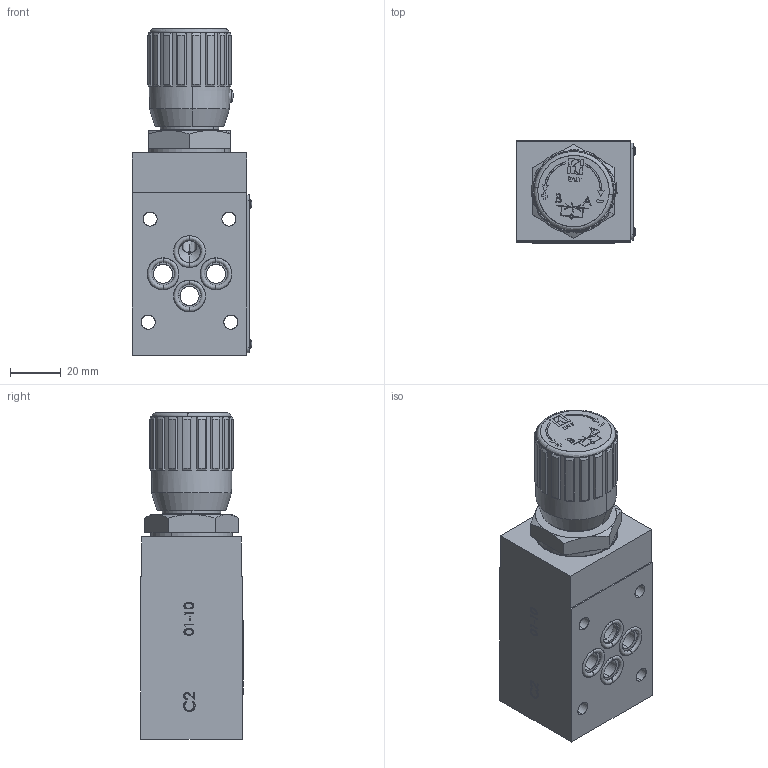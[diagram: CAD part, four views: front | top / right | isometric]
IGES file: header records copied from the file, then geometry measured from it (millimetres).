
Start section: SolidWorks IGES file using analytic representation for surfaces
Global section: file name: C:\Users\user\Desktop\FT357-5-A-03.IGS; native system: SolidWorks 2014; preprocessor: SolidWorks 2014; author: user; date: 140617.070935; units: millimetre
Bounding box: 46.96 x 40.38 x 128.3 mm (x, y, z)
Surface area: 60967.7 mm2 (no closed solid volume)
Topology: 0 solids, 0 shells, 2157 faces, 24314 edges, 24298 vertices
Faces by surface type: bspline 1653, revolution 504
